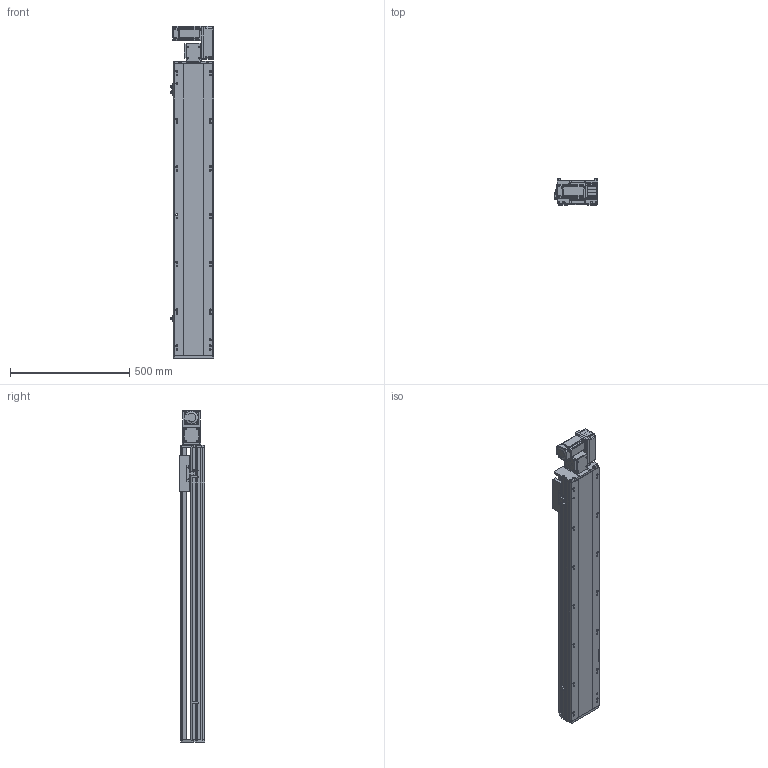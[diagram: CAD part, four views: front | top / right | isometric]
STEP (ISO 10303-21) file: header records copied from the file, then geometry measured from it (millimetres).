
FILE_DESCRIPTION (( 'STEP AP214' ), '1' );
FILE_NAME ('RTB17S-XX-950-R-M40-C4.STEP', '2025-12-11T07:37:29', ( '' ), ( '' ), 'SwSTEP 2.0', 'SolidWorks 2018', '' );
FILE_SCHEMA (( 'AUTOMOTIVE_DESIGN' ));
Length unit declared in the file: millimetre
Products named in the file (14): RTB17S-L-004佪裝蹟譫蟀諉釱^RTB17S-XX-XX-R-M40-C4; RTB14-L-018P^RTB17S-R-々湍釱蚾饜-400W_RTB17S-XX-XX-R-M40-C4; RTB17-R-011菁釱^RTB17S-XX-XX-R-M40-C4; OMRON EE-SX672 传感器^RTB17S-XX-XX-R-M40-C4; 400W侜督萇儂^RTB17S-XX-XX-R-M40-C4; RTB14-L-008-M20--萇儂啣^RTB17S-R-々湍釱蚾饜-400W_RTB17S-XX-XX-R-M40-C4; RTB17S-L-007奻裔^RTB17S-XX-XX-R-M40-C4; RTB14-L-005P--轴承塑胶压盖^RTB17S-R-皮带座装配-400W_RTB17S-XX-XX-R-M40-C4; RTB17S-R-々湍釱蚾饜-400W^RTB17S-XX-XX-R-M40-C4; RTB17S-L-001耜醱啣^RTB17S-XX-XX-R-M40-C4; RTB14-L-017P^RTB17S-R-々湍釱蚾饜-400W_RTB17S-XX-XX-R-M40-C4; RTH13-BL-012覜茼え俋离^RTB17S-XX-XX-R-M40-C4; RTB17S-XX-950-R-M40-C4; RTB17S-L-014-T20--々湍釱^RTB17S-R-々湍釱蚾饜-400W_RTB17S-XX-XX-R-M40-C4
Assembly tree (16 placements, depth 3):
  RTB17S-XX-950-R-M40-C4
    RTB17-R-011菁釱^RTB17S-XX-XX-R-M40-C4
    RTB17S-L-007奻裔^RTB17S-XX-XX-R-M40-C4
    OMRON EE-SX672 传感器^RTB17S-XX-XX-R-M40-C4  x3
    RTB17S-L-001耜醱啣^RTB17S-XX-XX-R-M40-C4
    400W侜督萇儂^RTB17S-XX-XX-R-M40-C4
    RTB17S-L-004佪裝蹟譫蟀諉釱^RTB17S-XX-XX-R-M40-C4
    RTH13-BL-012覜茼え俋离^RTB17S-XX-XX-R-M40-C4
    RTB17S-R-々湍釱蚾饜-400W^RTB17S-XX-XX-R-M40-C4
      RTB17S-L-014-T20--々湍釱^RTB17S-R-々湍釱蚾饜-400W_RTB17S-XX-XX-R-M40-C4
      RTB14-L-005P--轴承塑胶压盖^RTB17S-R-皮带座装配-400W_RTB17S-XX-XX-R-M40-C4
      RTB14-L-008-M20--萇儂啣^RTB17S-R-々湍釱蚾饜-400W_RTB17S-XX-XX-R-M40-C4
      RTB14-L-017P^RTB17S-R-々湍釱蚾饜-400W_RTB17S-XX-XX-R-M40-C4  x2
      RTB14-L-018P^RTB17S-R-々湍釱蚾饜-400W_RTB17S-XX-XX-R-M40-C4
Bounding box: 183.5 x 108 x 1391 mm (x, y, z)
Volume: 11966621.3 mm3; surface area: 1453600.3 mm2
Topology: 15 solids, 15 shells, 2205 faces, 6087 edges, 3969 vertices
Faces by surface type: plane 1068, cylinder 689, bspline 301, cone 139, torus 8
Entity records: 62633 total; most frequent: CARTESIAN_POINT 17492, ORIENTED_EDGE 9018, DIRECTION 8396, EDGE_CURVE 4509, VERTEX_POINT 2957, AXIS2_PLACEMENT_3D 2887, LINE 2622, VECTOR 2622
